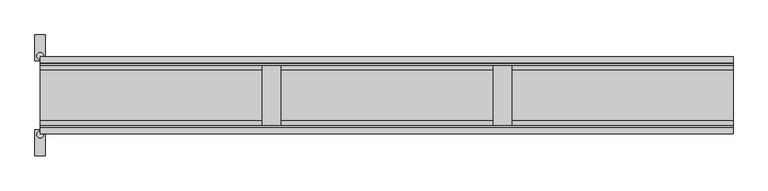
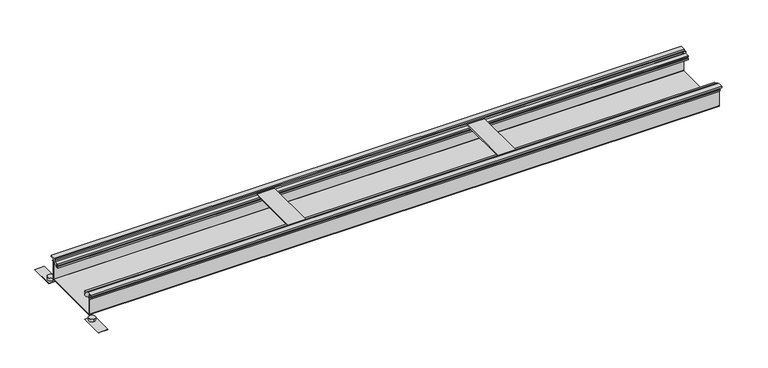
"""IFC4 building model written with IfcOpenShell, lengths in millimetres: proxy geometry, Electrical_Installation_Hager_BKW-Trunking-System-With-Trunking-Bottom-For-Dry-Cleaned-Floors : Nominal Size 250  Length 2.4 m."""

from ifc_helpers import new_model, si_unit, point, frame, frame_2d, origin, place, context, project, spatial, polyline, circle_curve, trimmed, segment, composite_curve, outline, extrude, source, transform, mapped, element, save


def electrical_fixtures_ba507e34(model_context):
    return source(origin(), model_context, "Body", "SweptSolid", [
        extrude(outline(composite_curve([segment(trimmed(circle_curve(frame_2d((0.0, 136.1652527)), 12.0), [point((0.0, 148.1652527))], [point((0.0, 124.1652527))], False, "CARTESIAN"), True, "CONTINUOUS"), segment(trimmed(circle_curve(frame_2d((0.0, 136.1652527)), 12.0), [point((0.0, 124.1652527))], [point((0.0, 148.1652527))], False, "CARTESIAN"), True, "CONTINUOUS")], self_intersect=False)), frame((0.0, 0.0, -85.5), z_axis=(0.0, 0.0, 1.0), x_axis=(1.0, 0.0, 0.0)), (0.0, 0.0, 1.0), 10.7),
        extrude(outline(composite_curve([segment(trimmed(circle_curve(frame_2d((0.0, -136.112037)), 12.0), [point((0.0, -124.112037))], [point((0.0, -148.112037))], False, "CARTESIAN"), True, "CONTINUOUS"), segment(trimmed(circle_curve(frame_2d((0.0, -136.112037)), 12.0), [point((0.0, -148.112037))], [point((0.0, -124.112037))], False, "CARTESIAN"), True, "CONTINUOUS")], self_intersect=False)), frame((0.0, 0.0, -85.5), z_axis=(0.0, 0.0, 1.0), x_axis=(1.0, 0.0, 0.0)), (0.0, 0.0, 1.0), 10.7),
        extrude(outline(polyline([(18.0, 119.1), (-18.0, 119.1), (-18.0, 209.1), (18.0, 209.1), (18.0, 119.1)])), frame((0.0, 0.0, -87.0), z_axis=(0.0, 0.0, 1.0), x_axis=(1.0, 0.0, 0.0)), (0.0, 0.0, 1.0), 1.5),
        extrude(outline(polyline([(18.0, -209.1), (-18.0, -209.1), (-18.0, -119.1), (18.0, -119.1), (18.0, -209.1)])), frame((0.0, 0.0, -87.0), z_axis=(0.0, 0.0, 1.0), x_axis=(1.0, 0.0, 0.0)), (0.0, 0.0, 1.0), 1.5),
        extrude(outline(polyline([(1633.5851476, 104.8), (1633.5851476, -104.8), (1568.585332, -104.8), (1568.585332, 104.8), (1633.5851476, 104.8)])), frame((0.0, 0.0, 2.5), z_axis=(0.0, 0.0, 1.0), x_axis=(1.0, 0.0, 0.0)), (0.0, 0.0, 1.0), 4.2),
        extrude(outline(polyline([(833.5851476, 104.8), (833.5851476, -104.8), (768.585332, -104.8), (768.585332, 104.8), (833.5851476, 104.8)])), frame((0.0, 0.0, 2.5), z_axis=(0.0, 0.0, 1.0), x_axis=(1.0, 0.0, 0.0)), (0.0, 0.0, 1.0), 4.2),
        extrude(outline(polyline([(133.0, 6.7), (115.0, 6.7), (115.0, -2.5), (125.475, -2.5), (125.475, -4.0), (119.6, -4.0), (119.6, -14.0), (118.1, -14.0), (118.1, -4.0), (110.1, -4.0), (110.1, -10.1), (98.3, -10.1), (98.3, -14.0), (88.1, -14.0), (88.1, -6.6607064), (91.0, -6.6607064), (91.0, -12.5), (95.7, -12.5), (95.7, 0.5), (91.0, 0.5), (91.0, -2.1), (87.9910979, -2.1), (87.9910979, 2.5), (104.8, 2.5), (104.8, 10.0), (110.0, 10.0), (110.0, -0.5), (113.0, -0.5), (113.0, 13.0), (133.0, 13.0), (133.0, 6.7)])), frame((0.0, 0.0, 0.0), z_axis=(1.0, 0.0, 0.0), x_axis=(0.0, 1.0, 0.0)), (0.0, 0.0, 1.0), 2400.0),
        extrude(outline(polyline([(-133.0, 6.7), (-133.0, 13.0), (-113.0, 13.0), (-113.0, -0.5), (-110.0, -0.5), (-110.0, 10.0), (-104.8, 10.0), (-104.8, 2.5), (-87.9910979, 2.5), (-87.9910979, -2.1), (-91.0, -2.1), (-91.0, 0.5), (-95.7, 0.5), (-95.7, -12.5), (-91.0, -12.5), (-91.0, -6.6607064), (-88.1, -6.6607064), (-88.1, -14.0), (-98.3, -14.0), (-98.3, -10.1), (-110.1, -10.1), (-110.1, -4.0), (-118.1, -4.0), (-118.1, -14.0), (-119.6, -14.0), (-119.6, -4.0), (-125.475, -4.0), (-125.475, -2.5), (-115.0, -2.5), (-115.0, 6.7), (-133.0, 6.7)])), frame((0.0, 0.0, 0.0), z_axis=(1.0, 0.0, 0.0), x_axis=(0.0, 1.0, 0.0)), (0.0, 0.0, 1.0), 2400.0),
        extrude(outline(composite_curve([segment(polyline([(116.0, -5.0), (111.0, -5.0), (111.0, -4.0), (116.0, -4.0)]), True, "CONTINUOUS"), segment(trimmed(circle_curve(frame_2d((116.0, -6.0)), 2.0), [point((116.0, -4.0))], [point((118.0, -6.0))], False, "CARTESIAN"), True, "CONTINUOUS"), segment(polyline([(118.0, -6.0), (118.0, -74.0)]), True, "CONTINUOUS"), segment(trimmed(circle_curve(frame_2d((116.0, -74.0)), 2.0), [point((118.0, -74.0))], [point((116.0, -76.0))], False, "CARTESIAN"), True, "CONTINUOUS"), segment(polyline([(116.0, -76.0), (-115.9892454, -76.0)]), True, "CONTINUOUS"), segment(trimmed(circle_curve(frame_2d((-115.9892454, -73.9892454)), 2.0107546), [point((-115.9892454, -76.0))], [point((-118.0, -73.9892454))], False, "CARTESIAN"), True, "CONTINUOUS"), segment(polyline([(-118.0, -73.9892454), (-118.0, -5.9843923)]), True, "CONTINUOUS"), segment(trimmed(circle_curve(frame_2d((-116.0156077, -5.9843923)), 1.9843923), [point((-118.0, -5.9843923))], [point((-116.0156077, -4.0))], False, "CARTESIAN"), True, "CONTINUOUS"), segment(polyline([(-116.0156077, -4.0), (-111.0, -4.0), (-111.0, -5.0), (-115.9930712, -5.0)]), True, "CONTINUOUS"), segment(trimmed(circle_curve(frame_2d((-115.9930712, -6.0069288)), 1.0069288), [point((-115.9930712, -5.0))], [point((-117.0, -6.0069288))], True, "CARTESIAN"), True, "CONTINUOUS"), segment(polyline([(-117.0, -6.0069288), (-117.0, -73.9588562)]), True, "CONTINUOUS"), segment(trimmed(circle_curve(frame_2d((-115.9588562, -73.9588562)), 1.0411438), [point((-117.0, -73.9588562))], [point((-115.9588562, -75.0))], True, "CARTESIAN"), True, "CONTINUOUS"), segment(polyline([(-115.9588562, -75.0), (116.0, -75.0)]), True, "CONTINUOUS"), segment(trimmed(circle_curve(frame_2d((116.0, -74.0)), 1.0), [point((116.0, -75.0))], [point((117.0, -74.0))], True, "CARTESIAN"), True, "CONTINUOUS"), segment(polyline([(117.0, -74.0), (117.0, -6.0)]), True, "CONTINUOUS"), segment(trimmed(circle_curve(frame_2d((116.0, -6.0)), 1.0), [point((117.0, -6.0))], [point((116.0, -5.0))], True, "CARTESIAN"), True, "CONTINUOUS")], self_intersect=False)), frame((0.0, 0.0, 0.0), z_axis=(1.0, 0.0, 0.0), x_axis=(0.0, 1.0, 0.0)), (0.0, 0.0, 1.0), 2400.0),
    ])


if __name__ == "__main__":
    model = new_model("IFC4")
    model_context = context("Model", 3, world=origin())
    ifc_project = project(units=[si_unit("LENGTHUNIT", "METRE", prefix="MILLI")], contexts=[model_context])
    site = spatial("IfcSite", under=ifc_project)
    building = spatial("IfcBuilding", under=site)
    placement = place(None, origin())
    electrical_fixtures_shape = electrical_fixtures_ba507e34(model_context)
    element("IfcBuildingElementProxy", 1, Name="Electrical_Installation_Hager_BKW-Trunking-System-With-Trunking-Bottom-For-Dry-Cleaned-Floors : Nominal Size 250  Length 2.4 m", ObjectType="Electrical_Installation_Hager_BKW-Trunking-System-With-Trunking-Bottom-For-Dry-Cleaned-Floors : Nominal Size 250  Length 2.4 m", at=placement, inside=building, context=model_context, shape_type="MappedRepresentation", body=[
        mapped(electrical_fixtures_shape, transform((0.0, 0.0, 0.0), x_axis=(1.0, 0.0, 0.0), y_axis=(0.0, 1.0, 0.0), z_axis=(0.0, 0.0, 1.0))),
    ])
    save(model, "model.ifc")
